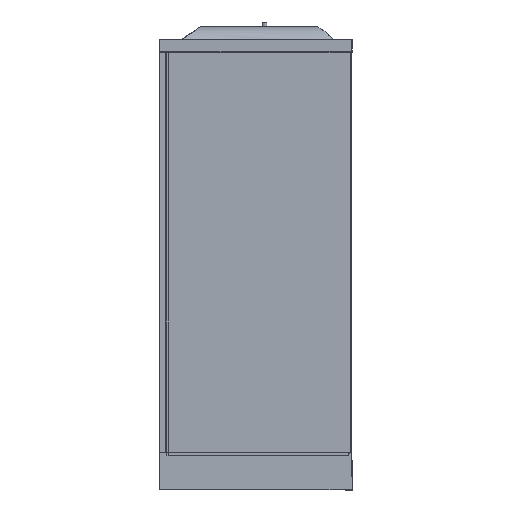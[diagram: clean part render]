
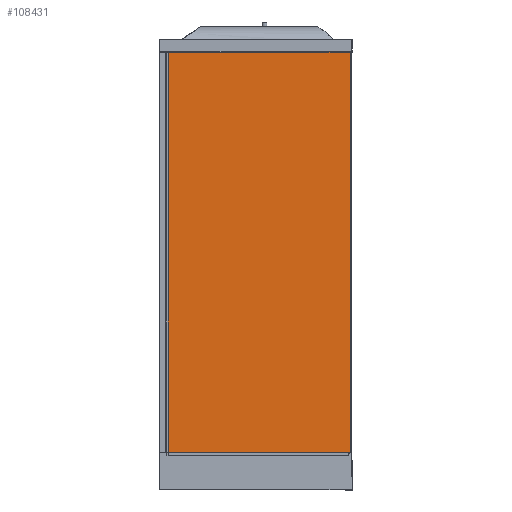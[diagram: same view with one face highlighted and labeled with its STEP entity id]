
A CAD part, left-side view. The second image highlights one B-rep face of the part: STEP entity #108431.
In plain terms, the highlighted free-form (B-spline) face has degree [1, 1] with [2, 2] control points.
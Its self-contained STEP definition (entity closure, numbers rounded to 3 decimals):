
#108070=CARTESIAN_POINT('',(-899.187,-888.39,168.06));
#108071=VERTEX_POINT('',#108070);
#108072=CARTESIAN_POINT('',(-899.187,-894.39,174.06));
#108073=VERTEX_POINT('',#108072);
#108074=CARTESIAN_POINT('',(-899.187,-888.39,168.06));
#108075=CARTESIAN_POINT('',(-899.187,-888.39,174.06));
#108076=CARTESIAN_POINT('',(-899.187,-894.39,174.06));
#108084=(BOUNDED_CURVE()B_SPLINE_CURVE(2,(#108074,#108075,#108076),.UNSPECIFIED.,.F.,.U.)CURVE()GEOMETRIC_REPRESENTATION_ITEM()QUASI_UNIFORM_CURVE()RATIONAL_B_SPLINE_CURVE((1.0,0.707,1.0))REPRESENTATION_ITEM(''));
#108085=EDGE_CURVE('',#108071,#108073,#108084,.T.);
#108126=CARTESIAN_POINT('',(-899.187,-888.39,163.06));
#108127=VERTEX_POINT('',#108126);
#108141=CARTESIAN_POINT('',(-899.187,-888.39,163.06));
#108142=DIRECTION('',(0.0,0.0,1.0));
#108143=VECTOR('',#108142,5.);
#108144=LINE('',#108141,#108143);
#108145=EDGE_CURVE('',#108127,#108071,#108144,.T.);
#108392=CARTESIAN_POINT('',(-899.187,-894.509,162.941));
#108393=CARTESIAN_POINT('',(-899.187,-894.509,2063.178));
#108394=CARTESIAN_POINT('',(-899.187,-43.293,162.941));
#108395=CARTESIAN_POINT('',(-899.187,-43.293,2063.178));
#108396=B_SPLINE_SURFACE_WITH_KNOTS('',1,1,((#108392,#108394),(#108393,#108395)),.UNSPECIFIED.,.F.,.F.,.U.,(2,2),(2,2),(1.237,1901.474),(8.711,859.926),.UNSPECIFIED.);
#108397=CARTESIAN_POINT('',(-899.187,-43.412,163.06));
#108398=VERTEX_POINT('',#108397);
#108399=CARTESIAN_POINT('',(-899.187,-43.412,163.06));
#108400=DIRECTION('',(0.,-1.,0.0));
#108401=VECTOR('',#108400,844.978);
#108402=LINE('',#108399,#108401);
#108403=EDGE_CURVE('',#108398,#108127,#108402,.T.);
#108404=ORIENTED_EDGE('',*,*,#108403,.T.);
#108405=ORIENTED_EDGE('',*,*,#108145,.T.);
#108406=ORIENTED_EDGE('',*,*,#108085,.T.);
#108407=CARTESIAN_POINT('',(-899.187,-894.39,2063.06));
#108408=VERTEX_POINT('',#108407);
#108409=CARTESIAN_POINT('',(-899.187,-894.39,174.06));
#108410=DIRECTION('',(0.0,0.0,1.0));
#108411=VECTOR('',#108410,1889.);
#108412=LINE('',#108409,#108411);
#108413=EDGE_CURVE('',#108073,#108408,#108412,.T.);
#108414=ORIENTED_EDGE('',*,*,#108413,.T.);
#108415=CARTESIAN_POINT('',(-899.187,-43.412,2063.06));
#108416=VERTEX_POINT('',#108415);
#108417=CARTESIAN_POINT('',(-899.187,-894.39,2063.06));
#108418=DIRECTION('',(0.,1.,0.0));
#108419=VECTOR('',#108418,850.978);
#108420=LINE('',#108417,#108419);
#108421=EDGE_CURVE('',#108408,#108416,#108420,.T.);
#108422=ORIENTED_EDGE('',*,*,#108421,.T.);
#108423=CARTESIAN_POINT('',(-899.187,-43.412,2063.06));
#108424=DIRECTION('',(0.0,0.0,-1.0));
#108425=VECTOR('',#108424,1900.0);
#108426=LINE('',#108423,#108425);
#108427=EDGE_CURVE('',#108416,#108398,#108426,.T.);
#108428=ORIENTED_EDGE('',*,*,#108427,.T.);
#108429=EDGE_LOOP('',(#108404,#108405,#108406,#108414,#108422,#108428));
#108430=FACE_OUTER_BOUND('',#108429,.T.);
#108431=ADVANCED_FACE('',(#108430),#108396,.T.);
